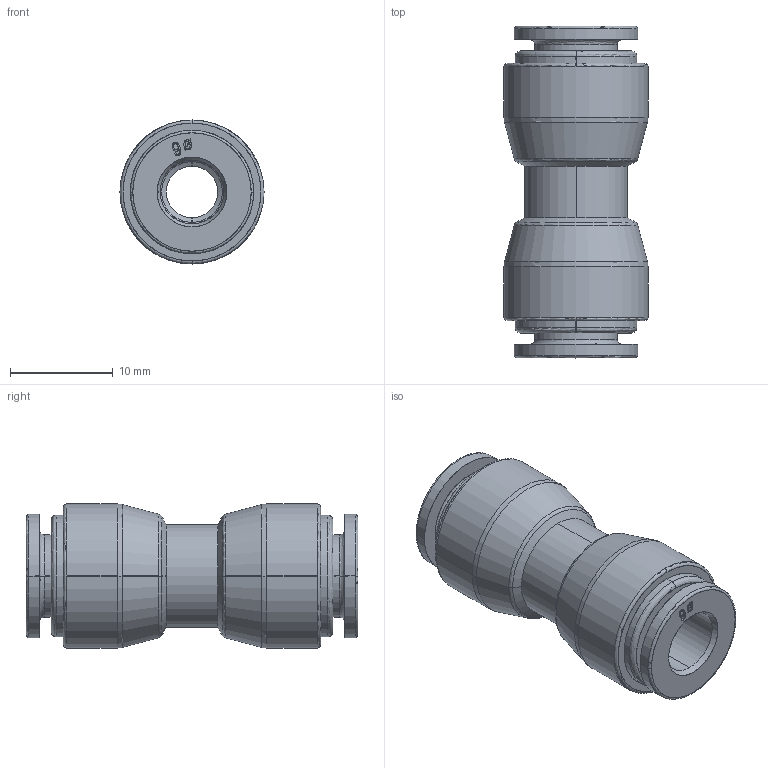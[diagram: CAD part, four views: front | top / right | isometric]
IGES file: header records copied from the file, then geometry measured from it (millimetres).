
Start section: SolidWorks IGES file using analytic representation for surfaces
Global section: file name: K:\Disegni Esecutivi\SERIE 53000\53000 Assiemi\53040\Iges\5304000004A.IGS; native system: SolidWorks 2020; preprocessor: SolidWorks 2020; author: cad06; date: 230306.113203; units: millimetre
Bounding box: 14 x 32.24 x 14 mm (x, y, z)
Surface area: 2375.5 mm2 (no closed solid volume)
Topology: 0 solids, 0 shells, 160 faces, 1830 edges, 1830 vertices
Faces by surface type: bspline 120, revolution 40
